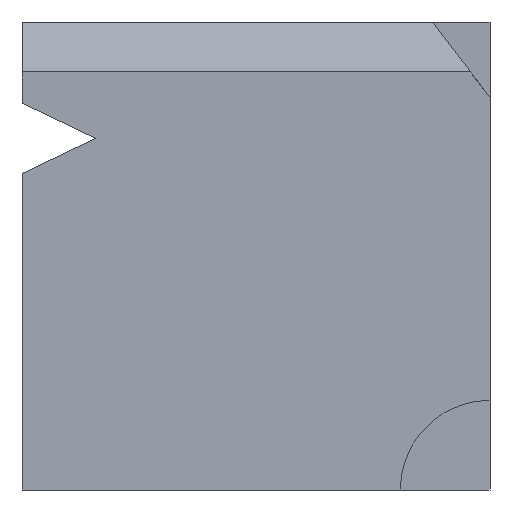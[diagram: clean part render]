
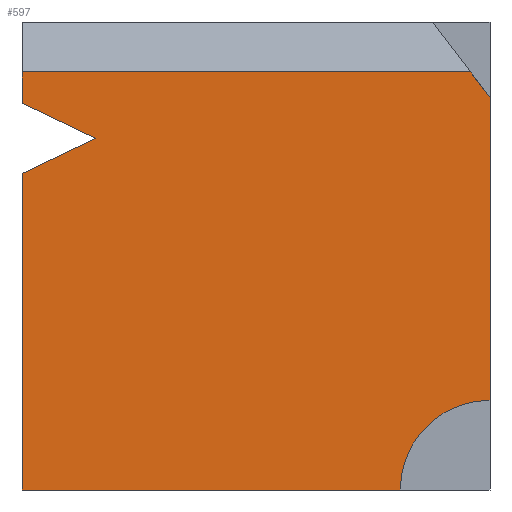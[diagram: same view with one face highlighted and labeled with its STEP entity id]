
A CAD part, front view. The second image highlights one B-rep face of the part: STEP entity #597.
In plain terms, the highlighted planar face has unit normal (0, -1, 0).
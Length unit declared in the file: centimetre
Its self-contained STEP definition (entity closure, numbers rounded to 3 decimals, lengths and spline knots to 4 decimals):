
#4 = VERTEX_POINT ( 'NONE', #264 ) ;
#31 = DIRECTION ( 'NONE',  ( 0., -1., 0. ) ) ;
#37 = VERTEX_POINT ( 'NONE', #580 ) ;
#47 = VECTOR ( 'NONE', #473, 100. ) ;
#58 = CARTESIAN_POINT ( 'NONE',  ( 0., 0., 893.273 ) ) ;
#62 = CARTESIAN_POINT ( 'NONE',  ( 0., 0., 1000. ) ) ;
#74 = DIRECTION ( 'NONE',  ( 0., 0., 1. ) ) ;
#82 = ORIENTED_EDGE ( 'NONE', *, *, #967, .T. ) ;
#101 = CARTESIAN_POINT ( 'NONE',  ( 0., 0., 0. ) ) ;
#103 = EDGE_CURVE ( 'NONE', #943, #37, #821, .T. ) ;
#104 = CARTESIAN_POINT ( 'NONE',  ( 0., 0., 1000. ) ) ;
#110 = CARTESIAN_POINT ( 'NONE',  ( 0., 0., 893.273 ) ) ;
#120 = VECTOR ( 'NONE', #1211, 100. ) ;
#121 = ORIENTED_EDGE ( 'NONE', *, *, #1052, .F. ) ;
#130 = VERTEX_POINT ( 'NONE', #1005 ) ;
#132 = ORIENTED_EDGE ( 'NONE', *, *, #155, .T. ) ;
#143 = ORIENTED_EDGE ( 'NONE', *, *, #103, .F. ) ;
#155 = EDGE_CURVE ( 'NONE', #186, #4, #1215, .T. ) ;
#172 = LINE ( 'NONE', #62, #744 ) ;
#186 = VERTEX_POINT ( 'NONE', #207 ) ;
#204 = LINE ( 'NONE', #104, #351 ) ;
#207 = CARTESIAN_POINT ( 'NONE',  ( 0., 0., 0. ) ) ;
#208 = DIRECTION ( 'NONE',  ( 0.603, 0., -0.798 ) ) ;
#217 = DIRECTION ( 'NONE',  ( 0.902, 0., -0.431 ) ) ;
#235 = EDGE_CURVE ( 'NONE', #395, #130, #644, .T. ) ;
#237 = AXIS2_PLACEMENT_3D ( 'NONE', #385, #1003, #74 ) ;
#244 = VERTEX_POINT ( 'NONE', #110 ) ;
#264 = CARTESIAN_POINT ( 'NONE',  ( 808.0934, 0., 0. ) ) ;
#294 = VECTOR ( 'NONE', #736, 100. ) ;
#309 = VERTEX_POINT ( 'NONE', #872 ) ;
#326 = VECTOR ( 'NONE', #208, 100. ) ;
#351 = VECTOR ( 'NONE', #941, 100. ) ;
#353 = CARTESIAN_POINT ( 'NONE',  ( 1000., 0., 0. ) ) ;
#364 = VECTOR ( 'NONE', #1235, 100. ) ;
#385 = CARTESIAN_POINT ( 'NONE',  ( 0., 0., 1000. ) ) ;
#390 = VECTOR ( 'NONE', #217, 100. ) ;
#395 = VERTEX_POINT ( 'NONE', #839 ) ;
#436 = CARTESIAN_POINT ( 'NONE',  ( 0., 0., 676.362 ) ) ;
#468 = CIRCLE ( 'NONE', #635, 191.9066 ) ;
#473 = DIRECTION ( 'NONE',  ( -1., 0., 0. ) ) ;
#580 = CARTESIAN_POINT ( 'NONE',  ( 1000., 0., 191.9066 ) ) ;
#589 = FACE_OUTER_BOUND ( 'NONE', #752, .T. ) ;
#597 = ADVANCED_FACE ( 'NONE', ( #589 ), #987, .F. ) ;
#611 = EDGE_CURVE ( 'NONE', #130, #722, #1341, .T. ) ;
#612 = CARTESIAN_POINT ( 'NONE',  ( 1000., 0., 1000. ) ) ;
#615 = LINE ( 'NONE', #824, #326 ) ;
#635 = AXIS2_PLACEMENT_3D ( 'NONE', #353, #31, #966 ) ;
#644 = LINE ( 'NONE', #1054, #390 ) ;
#722 = VERTEX_POINT ( 'NONE', #436 ) ;
#736 = DIRECTION ( 'NONE',  ( -0.902, 0., -0.431 ) ) ;
#744 = VECTOR ( 'NONE', #894, 100. ) ;
#752 = EDGE_LOOP ( 'NONE', ( #143, #121, #778, #1066, #1075, #1129, #82, #132, #1278 ) ) ;
#778 = ORIENTED_EDGE ( 'NONE', *, *, #820, .T. ) ;
#820 = EDGE_CURVE ( 'NONE', #309, #244, #1185, .T. ) ;
#821 = LINE ( 'NONE', #612, #364 ) ;
#824 = CARTESIAN_POINT ( 'NONE',  ( 1000., 0., 838.1118 ) ) ;
#839 = CARTESIAN_POINT ( 'NONE',  ( 0., 0., 826.4354 ) ) ;
#840 = CARTESIAN_POINT ( 'NONE',  ( 1000., 0., 838.1118 ) ) ;
#872 = CARTESIAN_POINT ( 'NONE',  ( 958.2725, 0., 893.273 ) ) ;
#894 = DIRECTION ( 'NONE',  ( 0., 0., -1. ) ) ;
#941 = DIRECTION ( 'NONE',  ( 0., 0., -1. ) ) ;
#942 = CARTESIAN_POINT ( 'NONE',  ( 0., 0., 676.362 ) ) ;
#943 = VERTEX_POINT ( 'NONE', #840 ) ;
#966 = DIRECTION ( 'NONE',  ( 0., 0., -1. ) ) ;
#967 = EDGE_CURVE ( 'NONE', #722, #186, #204, .T. ) ;
#987 = PLANE ( 'NONE',  #237 ) ;
#1003 = DIRECTION ( 'NONE',  ( 0., 1., 0. ) ) ;
#1005 = CARTESIAN_POINT ( 'NONE',  ( 156.9211, 0., 751.3987 ) ) ;
#1052 = EDGE_CURVE ( 'NONE', #309, #943, #615, .T. ) ;
#1054 = CARTESIAN_POINT ( 'NONE',  ( 156.9211, 0., 751.3987 ) ) ;
#1066 = ORIENTED_EDGE ( 'NONE', *, *, #1261, .T. ) ;
#1075 = ORIENTED_EDGE ( 'NONE', *, *, #235, .T. ) ;
#1129 = ORIENTED_EDGE ( 'NONE', *, *, #611, .T. ) ;
#1154 = EDGE_CURVE ( 'NONE', #37, #4, #468, .T. ) ;
#1185 = LINE ( 'NONE', #58, #47 ) ;
#1211 = DIRECTION ( 'NONE',  ( 1., 0., 0. ) ) ;
#1215 = LINE ( 'NONE', #101, #120 ) ;
#1235 = DIRECTION ( 'NONE',  ( 0., 0., -1. ) ) ;
#1261 = EDGE_CURVE ( 'NONE', #244, #395, #172, .T. ) ;
#1278 = ORIENTED_EDGE ( 'NONE', *, *, #1154, .F. ) ;
#1341 = LINE ( 'NONE', #942, #294 ) ;
